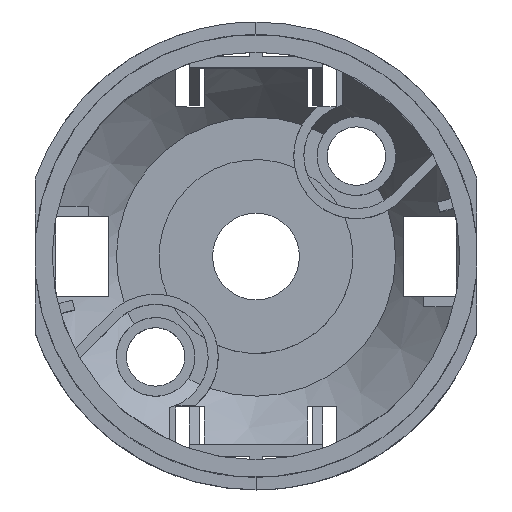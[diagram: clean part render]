
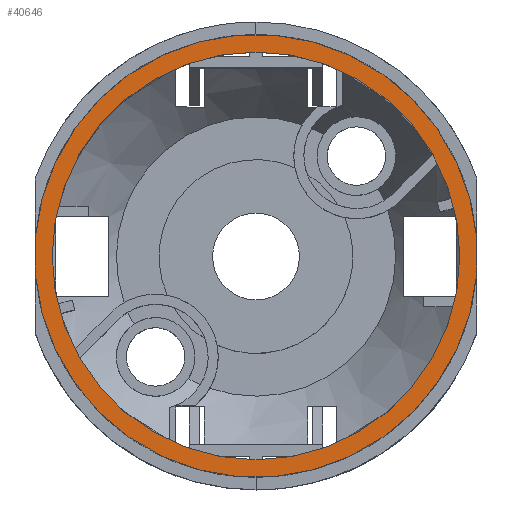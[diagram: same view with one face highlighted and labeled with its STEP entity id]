
A CAD part, top view. The second image highlights one B-rep face of the part: STEP entity #40646.
In plain terms, the highlighted planar face has unit normal (0, 0, 1).
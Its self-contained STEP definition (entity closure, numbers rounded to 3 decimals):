
#13596= CARTESIAN_POINT(' ',(13.2,1.15,7.5));
#13597= VERTEX_POINT(' ',#13596);
#13611= CARTESIAN_POINT(' ',(13.2,-1.15,7.5));
#13616= DIRECTION(' ',(0.,1.,0.));
#13621= VECTOR(' ',#13616,1.);
#13626= LINE(' ',#13611,#13621);
#13631= CARTESIAN_POINT(' ',(13.2,-1.15,7.5));
#13632= VERTEX_POINT(' ',#13631);
#13636= EDGE_CURVE(' ',#13632,#13597,#13626,.T.);
#17406= CARTESIAN_POINT(' ',(-13.2,-1.15,7.5));
#17407= VERTEX_POINT(' ',#17406);
#17421= CARTESIAN_POINT(' ',(-13.2,1.15,7.5));
#17426= DIRECTION(' ',(0.,-1.,0.));
#17431= VECTOR(' ',#17426,1.);
#17436= LINE(' ',#17421,#17431);
#17441= CARTESIAN_POINT(' ',(-13.2,1.15,7.5));
#17442= VERTEX_POINT(' ',#17441);
#17446= EDGE_CURVE(' ',#17442,#17407,#17436,.T.);
#29981= CARTESIAN_POINT(' ',(-12.2,0.,7.5));
#29982= VERTEX_POINT(' ',#29981);
#30746= CARTESIAN_POINT(' ',(12.2,0.,7.5));
#30747= VERTEX_POINT(' ',#30746);
#30761= CARTESIAN_POINT(' ',(0.,0.,7.5));
#30766= DIRECTION(' ',(0.,0.,-1.));
#30771= DIRECTION(' ',(-1.,0.,0.));
#30776= AXIS2_PLACEMENT_3D(' ',#30761,#30766,#30771);
#30781= CIRCLE(' ',#30776,12.2);
#30786= EDGE_CURVE(' ',#29982,#30747,#30781,.T.);
#40461= CARTESIAN_POINT(' ',(0.,0.,7.5));
#40466= DIRECTION(' ',(0.,0.,-1.));
#40471= DIRECTION(' ',(-0.996,0.087,0.));
#40476= AXIS2_PLACEMENT_3D(' ',#40461,#40466,#40471);
#40481= CIRCLE(' ',#40476,13.25);
#40486= EDGE_CURVE(' ',#17442,#13597,#40481,.T.);
#40511= CARTESIAN_POINT(' ',(-13.2,13.346,7.5));
#40516= DIRECTION(' ',(0.,0.,1.));
#40521= DIRECTION(' ',(0.,-1.,0.));
#40526= AXIS2_PLACEMENT_3D(' ',#40511,#40516,#40521);
#40531= PLANE(' ',#40526);
#40536= ORIENTED_EDGE(' ',*,*,#13636,.T.);
#40541= ORIENTED_EDGE(' ',*,*,#40486,.F.);
#40546= ORIENTED_EDGE(' ',*,*,#17446,.T.);
#40551= CARTESIAN_POINT(' ',(0.,0.,7.5));
#40556= DIRECTION(' ',(0.,0.,-1.));
#40561= DIRECTION(' ',(0.996,-0.087,0.));
#40566= AXIS2_PLACEMENT_3D(' ',#40551,#40556,#40561);
#40571= CIRCLE(' ',#40566,13.25);
#40576= EDGE_CURVE(' ',#13632,#17407,#40571,.T.);
#40581= ORIENTED_EDGE(' ',*,*,#40576,.F.);
#40586= EDGE_LOOP(' ',(#40536,#40541,#40546,#40581));
#40591= FACE_OUTER_BOUND(' ',#40586,.T.);
#40596= CARTESIAN_POINT(' ',(0.,0.,7.5));
#40601= DIRECTION(' ',(0.,0.,-1.));
#40606= DIRECTION(' ',(1.,0.,0.));
#40611= AXIS2_PLACEMENT_3D(' ',#40596,#40601,#40606);
#40616= CIRCLE(' ',#40611,12.2);
#40621= EDGE_CURVE(' ',#30747,#29982,#40616,.T.);
#40626= ORIENTED_EDGE(' ',*,*,#40621,.T.);
#40631= ORIENTED_EDGE(' ',*,*,#30786,.T.);
#40636= EDGE_LOOP(' ',(#40626,#40631));
#40641= FACE_BOUND(' ',#40636,.T.);
#40646= ADVANCED_FACE(' ',(#40591,#40641),#40531,.T.);
